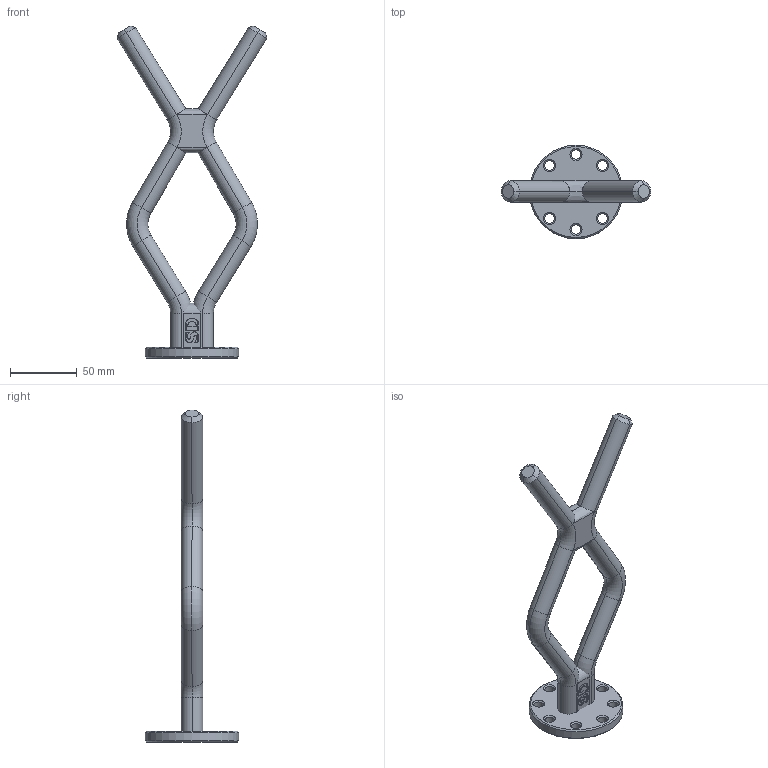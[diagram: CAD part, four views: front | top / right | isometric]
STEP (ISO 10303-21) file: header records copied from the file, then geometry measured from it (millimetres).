
FILE_DESCRIPTION(/* description */ ('ROV - FISHTAIL SD, CASTED - 4853-002'),/* implementation_level */ '2;1');
FILE_NAME(/* name */ 'IKM-6007080.stp',/* time_stamp */ '2025-01-15T09:23:46+01:00',/* author */ ('KateB'),/* organization */ ('IKM Subsea AS'),/* preprocessor_version */ 'ST-DEVELOPER v19.2',/* originating_system */ 'Autodesk Inventor 2023',/* authorisation */ '');
FILE_SCHEMA (('AUTOMOTIVE_DESIGN { 1 0 10303 214 3 1 1 }'));
Length unit declared in the file: millimetre
Products named in the file (1): IKM-6007080
Bounding box: 111.96 x 70 x 248.43 mm (x, y, z)
Volume: 139930.3 mm3; surface area: 43730.3 mm2
Topology: 6 solids, 6 shells, 180 faces, 420 edges, 256 vertices
Faces by surface type: cylinder 48, plane 40, bspline 36, torus 28, cone 26, sphere 2
Full cylindrical faces by diameter (mm): 7 x8, 70 x1
Entity records: 5774 total; most frequent: CARTESIAN_POINT 1682, ORIENTED_EDGE 840, DIRECTION 815, EDGE_CURVE 420, AXIS2_PLACEMENT_3D 321, VERTEX_POINT 256, EDGE_LOOP 208, FACE_OUTER_BOUND 180
